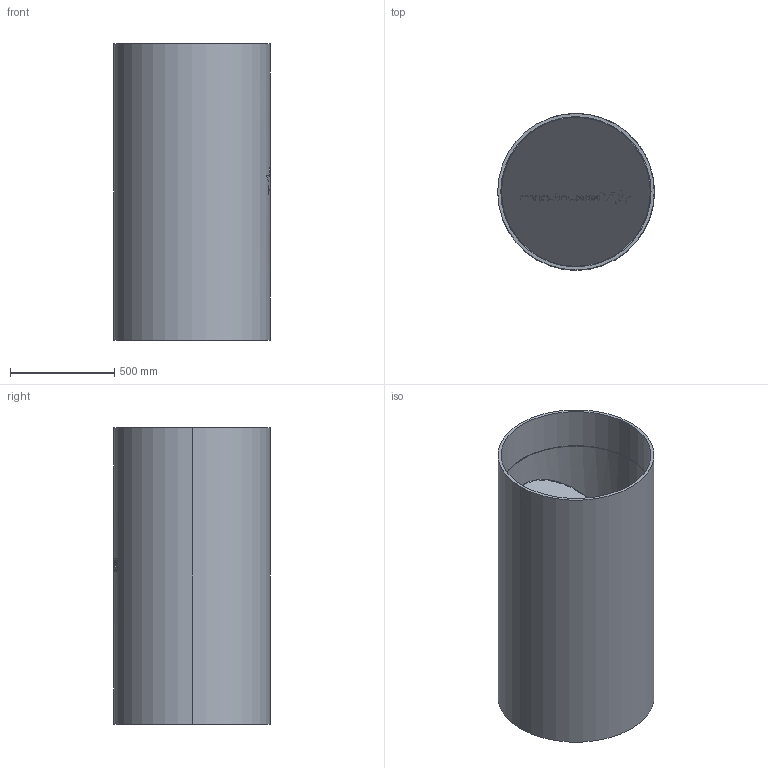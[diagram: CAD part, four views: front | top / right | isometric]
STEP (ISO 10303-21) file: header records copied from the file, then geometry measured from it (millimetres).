
FILE_DESCRIPTION (( 'STEP AP214' ), '1' );
FILE_NAME ('CF-IL-G5-S0750-NN-316-IDP.STEP', '2023-03-21T12:39:22', ( '' ), ( '' ), 'SwSTEP 2.0', 'SolidWorks 2022', '' );
FILE_SCHEMA (( 'AUTOMOTIVE_DESIGN' ));
Length unit declared in the file: millimetre
Products named in the file (3): CF-IL-G5-S0750-NN-316-IDP; Clamp- 750_750; CF-IL-G5-S0750-NN-316-IDP_CM-0100-B
Assembly tree (3 placements, depth 2):
  CF-IL-G5-S0750-NN-316-IDP
    CF-IL-G5-S0750-NN-316-IDP_CM-0100-B
    Clamp- 750_750  x2
Bounding box: 750.5 x 750.5 x 1420 mm (x, y, z)
Volume: 60939341.9 mm3; surface area: 8471092 mm2
Topology: 11 solids, 11 shells, 2016 faces, 5588 edges, 3631 vertices
Faces by surface type: plane 817, bspline 672, cone 270, cylinder 257
Entity records: 77134 total; most frequent: CARTESIAN_POINT 22909, ORIENTED_EDGE 9844, DIRECTION 5061, EDGE_CURVE 4922, VERTEX_POINT 3250, VECTOR 2281, B_SPLINE_CURVE_WITH_KNOTS 2281, LINE 2281
